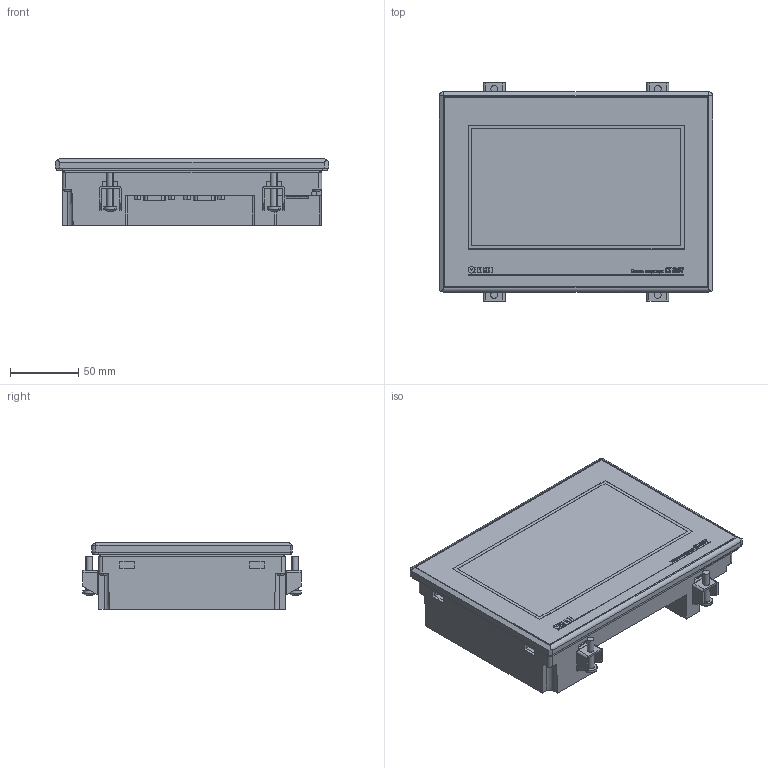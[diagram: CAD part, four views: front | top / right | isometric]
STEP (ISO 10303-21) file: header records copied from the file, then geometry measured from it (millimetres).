
FILE_DESCRIPTION (( 'STEP AP214' ), '1' );
FILE_NAME ('3D ìîäåëü ÑÏ307-Á.STEP', '2017-01-24T14:17:24', ( 'adm' ), ( 'MICROSOFT' ), 'SwSTEP 2.0', 'SolidWorks 2011', '' );
FILE_SCHEMA (( 'AUTOMOTIVE_DESIGN' ));
Length unit declared in the file: millimetre
Products named in the file (10): pan head cross recess screw_din_ISO 7045 - M5 x 25 - Z --- 25N; Çàæèì ìåòàë; ÑÏ307 ïàíåëü ëèöåâàÿ_00; Óïëîòíèòåëü ÑÏ307; USB ðîçåòêà; 幄樏歑 9pin; DIP-ïåðåêëþ÷àòåëü 4ïîç; 冓踖樦 2EDGR-5.08-3p; Êîðïóñ ÑÏ307-Á; 3D ìîäåëü ÑÏ307-Á
Assembly tree (16 placements, depth 2):
  3D ìîäåëü ÑÏ307-Á
    Êîðïóñ ÑÏ307-Á
    冓踖樦 2EDGR-5.08-3p
    DIP-ïåðåêëþ÷àòåëü 4ïîç
    幄樏歑 9pin  x2
    USB ðîçåòêà
    Óïëîòíèòåëü ÑÏ307
    ÑÏ307 ïàíåëü ëèöåâàÿ_00
    Çàæèì ìåòàë  x4
    pan head cross recess screw_din_ISO 7045 - M5 x 25 - Z --- 25N  x4
Bounding box: 200.4 x 160.59 x 49.01 mm (x, y, z)
Volume: 1194323.2 mm3; surface area: 187139.5 mm2
Topology: 42 solids, 42 shells, 1364 faces, 3345 edges, 2159 vertices
Faces by surface type: plane 929, cylinder 180, bspline 166, cone 49, torus 32, sphere 8
Entity records: 43441 total; most frequent: CARTESIAN_POINT 12265, ORIENTED_EDGE 5278, DIRECTION 4318, EDGE_CURVE 2639, LINE 1892, VECTOR 1892, VERTEX_POINT 1730, AXIS2_PLACEMENT_3D 1213
